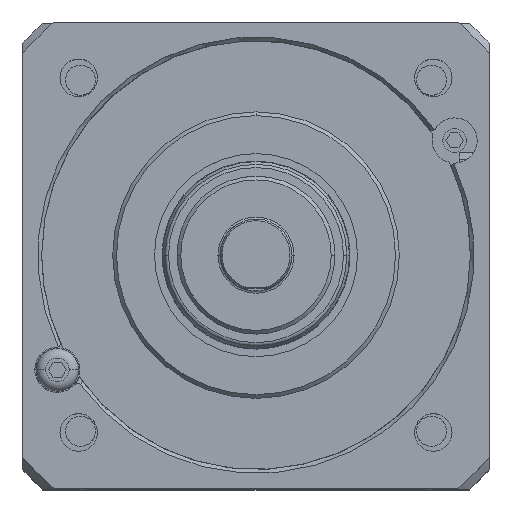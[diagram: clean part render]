
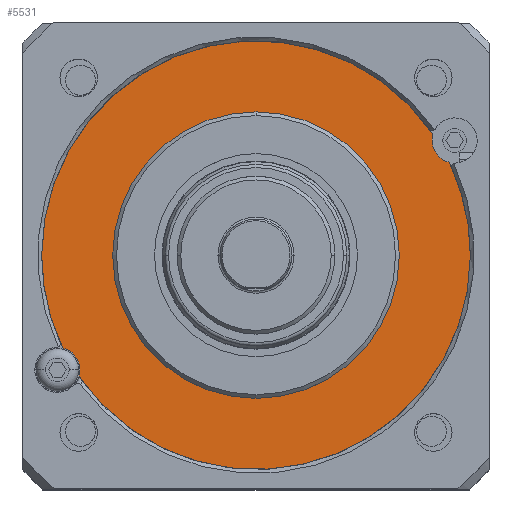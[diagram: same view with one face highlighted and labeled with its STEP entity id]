
A CAD part, top view. The second image highlights one B-rep face of the part: STEP entity #5531.
In plain terms, the highlighted planar face has unit normal (0, 0, 1).
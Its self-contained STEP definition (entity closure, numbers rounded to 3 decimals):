
#5334=CARTESIAN_POINT('',(0.,0.,-0.2));
#5335=DIRECTION('',(0.,0.,-1.));
#5336=DIRECTION('',(0.,-1.,0.));
#5337=AXIS2_PLACEMENT_3D('',#5334,#5335,#5336);
#5339=CARTESIAN_POINT('',(0.,0.,-0.2));
#5340=DIRECTION('',(0.,0.,-1.));
#5341=DIRECTION('',(0.,1.,0.));
#5342=AXIS2_PLACEMENT_3D('',#5339,#5340,#5341);
#5344=CARTESIAN_POINT('',(-26.414,-15.25,-0.2));
#5345=DIRECTION('',(0.,0.,1.));
#5346=DIRECTION('',(0.961,-0.277,0.));
#5347=AXIS2_PLACEMENT_3D('',#5344,#5345,#5346);
#5349=CARTESIAN_POINT('',(0.,0.,-0.2));
#5350=DIRECTION('',(0.,0.,-1.));
#5351=DIRECTION('',(-0.901,-0.433,0.));
#5352=AXIS2_PLACEMENT_3D('',#5349,#5350,#5351);
#5354=CARTESIAN_POINT('',(0.,0.,-0.2));
#5355=DIRECTION('',(0.,0.,-1.));
#5356=DIRECTION('',(-1.,0.,0.));
#5357=AXIS2_PLACEMENT_3D('',#5354,#5355,#5356);
#5359=CARTESIAN_POINT('',(26.414,15.25,-0.2));
#5360=DIRECTION('',(0.,0.,1.));
#5361=DIRECTION('',(-0.961,0.277,0.));
#5362=AXIS2_PLACEMENT_3D('',#5359,#5360,#5361);
#5364=CARTESIAN_POINT('',(0.,0.,-0.2));
#5365=DIRECTION('',(0.,0.,-1.));
#5366=DIRECTION('',(0.901,0.433,0.));
#5367=AXIS2_PLACEMENT_3D('',#5364,#5365,#5366);
#5369=CARTESIAN_POINT('',(0.,0.,-0.2));
#5370=DIRECTION('',(0.,0.,-1.));
#5371=DIRECTION('',(1.,0.,0.));
#5372=AXIS2_PLACEMENT_3D('',#5369,#5370,#5371);
#5382=CARTESIAN_POINT('',(0.,-19.05,-0.2));
#5383=CARTESIAN_POINT('',(0.,19.05,-0.2));
#5384=VERTEX_POINT('',#5382);
#5385=VERTEX_POINT('',#5383);
#5394=CARTESIAN_POINT('',(28.5,0.,-0.2));
#5395=CARTESIAN_POINT('',(25.691,12.338,-0.2));
#5396=VERTEX_POINT('',#5394);
#5397=VERTEX_POINT('',#5395);
#5398=CARTESIAN_POINT('',(23.531,16.08,-0.2));
#5399=CARTESIAN_POINT('',(-28.5,0.,-0.2));
#5400=VERTEX_POINT('',#5398);
#5401=VERTEX_POINT('',#5399);
#5402=CARTESIAN_POINT('',(-25.691,-12.338,-0.2));
#5403=VERTEX_POINT('',#5402);
#5404=CARTESIAN_POINT('',(-23.531,-16.08,-0.2));
#5405=VERTEX_POINT('',#5404);
#5508=CARTESIAN_POINT('',(0.,0.,-0.2));
#5509=DIRECTION('',(0.,0.,1.));
#5510=DIRECTION('',(0.,-1.,0.));
#5511=AXIS2_PLACEMENT_3D('',#5508,#5509,#5510);
#5512=PLANE('',#5511);
#5514=ORIENTED_EDGE('',*,*,#5513,.T.);
#5516=ORIENTED_EDGE('',*,*,#5515,.T.);
#5518=ORIENTED_EDGE('',*,*,#5517,.T.);
#5520=ORIENTED_EDGE('',*,*,#5519,.T.);
#5522=ORIENTED_EDGE('',*,*,#5521,.T.);
#5524=ORIENTED_EDGE('',*,*,#5523,.T.);
#5525=EDGE_LOOP('',(#5514,#5516,#5518,#5520,#5522,#5524));
#5526=FACE_OUTER_BOUND('',#5525,.F.);
#5527=ORIENTED_EDGE('',*,*,#5502,.F.);
#5528=ORIENTED_EDGE('',*,*,#5488,.F.);
#5529=EDGE_LOOP('',(#5527,#5528));
#5530=FACE_BOUND('',#5529,.F.);
#5531=ADVANCED_FACE('',(#5526,#5530),#5512,.T.);
#5338=CIRCLE('',#5337,19.05);
#5343=CIRCLE('',#5342,19.05);
#5348=CIRCLE('',#5347,3.);
#5353=CIRCLE('',#5352,28.5);
#5358=CIRCLE('',#5357,28.5);
#5363=CIRCLE('',#5362,3.);
#5368=CIRCLE('',#5367,28.5);
#5373=CIRCLE('',#5372,28.5);
#5488=EDGE_CURVE('',#5385,#5384,#5343,.T.);
#5502=EDGE_CURVE('',#5384,#5385,#5338,.T.);
#5513=EDGE_CURVE('',#5405,#5403,#5348,.T.);
#5515=EDGE_CURVE('',#5403,#5401,#5353,.T.);
#5517=EDGE_CURVE('',#5401,#5400,#5358,.T.);
#5519=EDGE_CURVE('',#5400,#5397,#5363,.T.);
#5521=EDGE_CURVE('',#5397,#5396,#5368,.T.);
#5523=EDGE_CURVE('',#5396,#5405,#5373,.T.);
